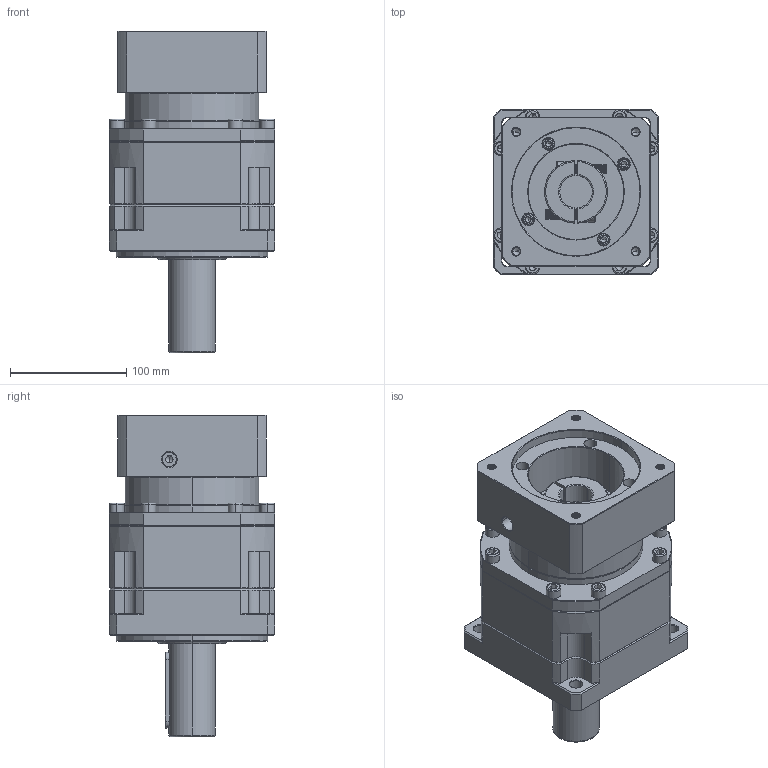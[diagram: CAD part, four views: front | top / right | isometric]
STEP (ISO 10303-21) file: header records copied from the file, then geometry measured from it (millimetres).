
FILE_DESCRIPTION (( 'STEP AP214' ), '1' );
FILE_NAME ('ZB142A-D40-L1-P2-28-110-145-M8.step', '2023-09-01T11:41:17', ( '' ), ( '' ), 'SwSTEP 2.0', 'SolidWorks 2016', '' );
FILE_SCHEMA (( 'AUTOMOTIVE_DESIGN' ));
Length unit declared in the file: millimetre
Products named in the file (1): ZB142A-D40-L1-P2-28-110-145-M8
Bounding box: 142 x 142 x 276.3 mm (x, y, z)
Volume: 2973112 mm3; surface area: 284092.9 mm2
Topology: 7 solids, 7 shells, 2558 faces, 6717 edges, 4286 vertices
Faces by surface type: plane 1198, cylinder 513, bspline 408, cone 381, torus 58
Entity records: 140852 total; most frequent: CARTESIAN_POINT 53084, ORIENTED_EDGE 13326, DIRECTION 10853, EDGE_CURVE 6663, VERTEX_POINT 4286, LINE 4217, VECTOR 4217, AXIS2_PLACEMENT_3D 3318
